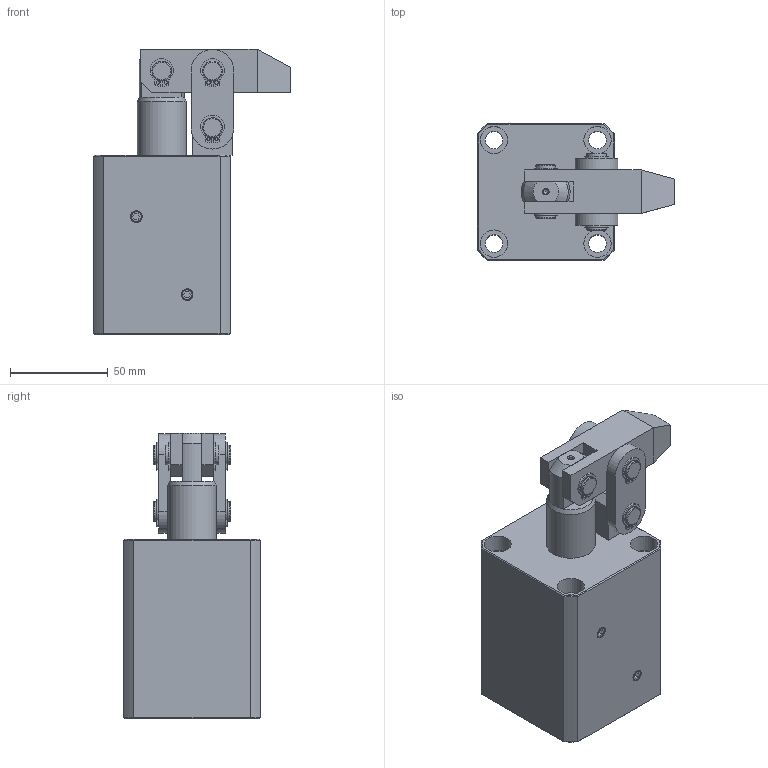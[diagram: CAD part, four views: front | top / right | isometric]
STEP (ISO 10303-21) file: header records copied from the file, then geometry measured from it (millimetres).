
FILE_DESCRIPTION(/* description */ ('Unknown'),/* implementation_level */ '2;1');
FILE_NAME(/* name */ 'HLB-M40-A',/* time_stamp */ '2025-06-04T00:46:55+08:00',/* author */ ('Unknown'),/* organization */ ('Unknown'),/* preprocessor_version */ 'ST-DEVELOPER v16.7',/* originating_system */ 'DEX',/* authorisation */ $);
FILE_SCHEMA (('AUTOMOTIVE_DESIGN {1 0 10303 214 3 1 1}'));
Length unit declared in the file: millimetre
Products named in the file (8): HLB-M40-A; HLB-M40-CYLINDER; HLB-40-乖婂湀; HLB-40-A; HLB-40-C扣0; HLB-4002-AXLE CENTRE; HLB-40-PINµu; HLB-40-PINªø·
Assembly tree (14 placements, depth 2):
  HLB-M40-A
    HLB-M40-CYLINDER
    HLB-40-乖婂湀  x2
    HLB-40-A
    HLB-40-C扣0  x6
    HLB-4002-AXLE CENTRE
    HLB-40-PINµu
    HLB-40-PINªø·  x2
Bounding box: 101 x 70 x 146.2 mm (x, y, z)
Volume: 454418.8 mm3; surface area: 88059.7 mm2
Topology: 14 solids, 14 shells, 277 faces, 637 edges, 416 vertices
Faces by surface type: plane 133, cylinder 113, cone 23, torus 8
Full cylindrical faces by diameter (mm): 1.7 x12, 2.496 x1, 4.1 x2, 5 x2, 9 x4, 9.5 x7, 10 x17, 11 x2, 14 x4, 25 x2, 40 x2
Entity records: 4744 total; most frequent: DIRECTION 813, CARTESIAN_POINT 803, ORIENTED_EDGE 626, AXIS2_PLACEMENT_3D 329, EDGE_CURVE 313, FACE_BOUND 286, EDGE_LOOP 283, VERTEX_POINT 235
